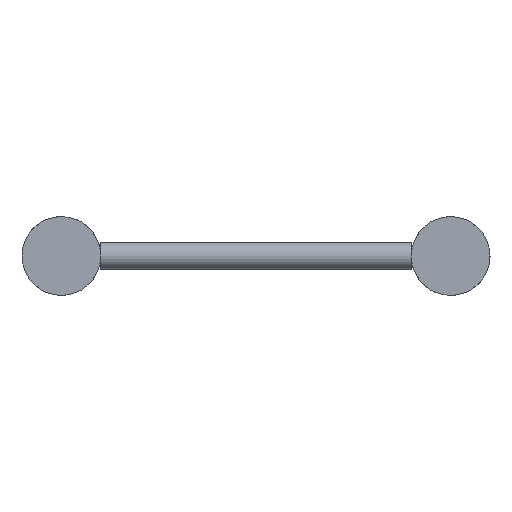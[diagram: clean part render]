
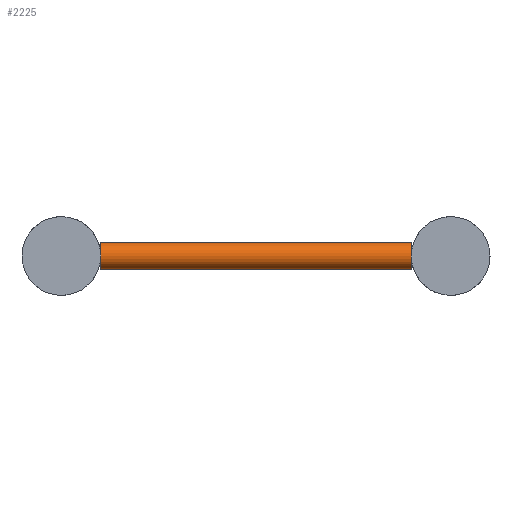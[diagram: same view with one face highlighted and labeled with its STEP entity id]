
A CAD part, left-side view. The second image highlights one B-rep face of the part: STEP entity #2225.
In plain terms, the highlighted cylindrical face has radius 8 mm (diameter 16 mm), a full revolution.
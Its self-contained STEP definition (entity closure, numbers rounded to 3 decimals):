
#451=FACE_BOUND('',#789,.T.);
#628=FACE_OUTER_BOUND('',#788,.T.);
#788=EDGE_LOOP('',(#1713,#1714));
#789=EDGE_LOOP('',(#1715,#1716));
#901=CIRCLE('',#2446,8.);
#902=CIRCLE('',#2448,8.);
#903=CIRCLE('',#2450,8.);
#904=CIRCLE('',#2452,8.);
#1081=VERTEX_POINT('',#3917);
#1082=VERTEX_POINT('',#3918);
#1083=VERTEX_POINT('',#3922);
#1084=VERTEX_POINT('',#3923);
#1352=EDGE_CURVE('',#1082,#1081,#901,.T.);
#1354=EDGE_CURVE('',#1084,#1083,#902,.T.);
#1355=EDGE_CURVE('',#1081,#1082,#903,.T.);
#1356=EDGE_CURVE('',#1083,#1084,#904,.T.);
#1713=ORIENTED_EDGE('',*,*,#1352,.T.);
#1714=ORIENTED_EDGE('',*,*,#1355,.T.);
#1715=ORIENTED_EDGE('',*,*,#1354,.T.);
#1716=ORIENTED_EDGE('',*,*,#1356,.T.);
#1969=CYLINDRICAL_SURFACE('',#2451,8.);
#2225=ADVANCED_FACE('',(#628,#451),#1969,.T.);
#2446=AXIS2_PLACEMENT_3D('',#3920,#2952,#2953);
#2448=AXIS2_PLACEMENT_3D('',#3925,#2957,#2958);
#2450=AXIS2_PLACEMENT_3D('',#3927,#2961,#2962);
#2451=AXIS2_PLACEMENT_3D('',#3928,#2963,#2964);
#2452=AXIS2_PLACEMENT_3D('',#3929,#2965,#2966);
#2952=DIRECTION('center_axis',(0.,1.,0.));
#2953=DIRECTION('ref_axis',(-1.,0.,0.));
#2957=DIRECTION('center_axis',(0.,-1.,0.));
#2958=DIRECTION('ref_axis',(-1.,0.,0.));
#2961=DIRECTION('center_axis',(0.,1.,0.));
#2962=DIRECTION('ref_axis',(-1.,0.,0.));
#2963=DIRECTION('center_axis',(0.,1.,0.));
#2964=DIRECTION('ref_axis',(-1.,0.,0.));
#2965=DIRECTION('center_axis',(0.,-1.,0.));
#2966=DIRECTION('ref_axis',(-1.,0.,0.));
#3917=CARTESIAN_POINT('',(52.,24.15,0.));
#3918=CARTESIAN_POINT('',(68.,24.15,0.));
#3920=CARTESIAN_POINT('Origin',(60.,24.15,0.));
#3922=CARTESIAN_POINT('',(52.,214.85,0.));
#3923=CARTESIAN_POINT('',(68.,214.85,0.));
#3925=CARTESIAN_POINT('Origin',(60.,214.85,0.));
#3927=CARTESIAN_POINT('Origin',(60.,24.15,0.));
#3928=CARTESIAN_POINT('Origin',(60.,119.5,0.));
#3929=CARTESIAN_POINT('Origin',(60.,214.85,0.));
